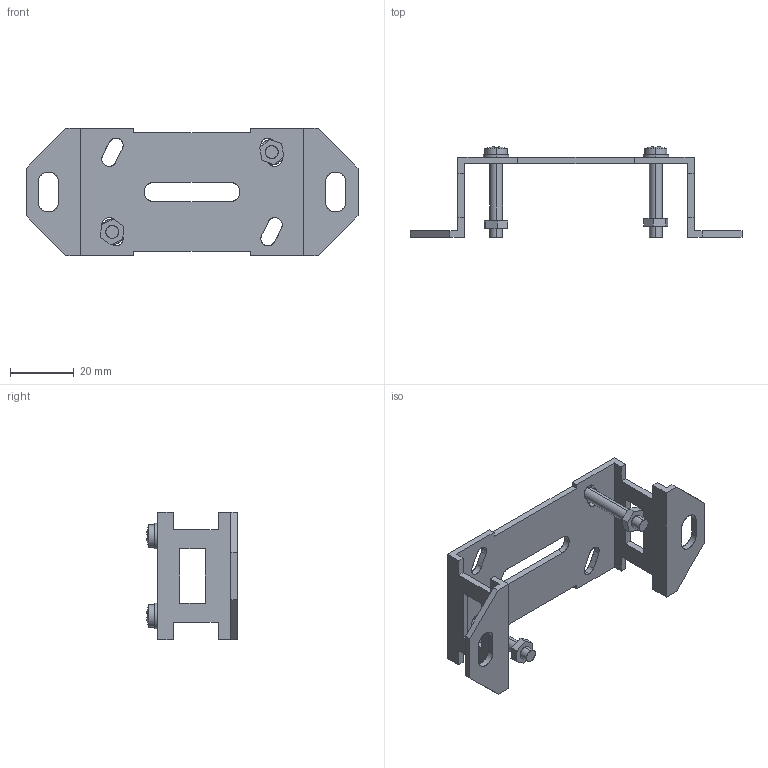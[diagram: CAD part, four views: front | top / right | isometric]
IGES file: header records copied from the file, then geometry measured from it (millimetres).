
Start section: SolidWorks IGES file using analytic representation for surfaces
Global section: file name: C:\catalog\MS-NX5-2.IGS; native system: SolidWorks 2005 by SolidWorks Corporation; preprocessor: SolidWorks 2005 by SolidWorks Corporation; author: yk0651; date: 070713.181717; units: millimetre
Bounding box: 104 x 28.36 x 40 mm (x, y, z)
Surface area: 11820.5 mm2 (no closed solid volume)
Topology: 0 solids, 0 shells, 150 faces, 1692 edges, 1692 vertices
Faces by surface type: bspline 104, revolution 46
